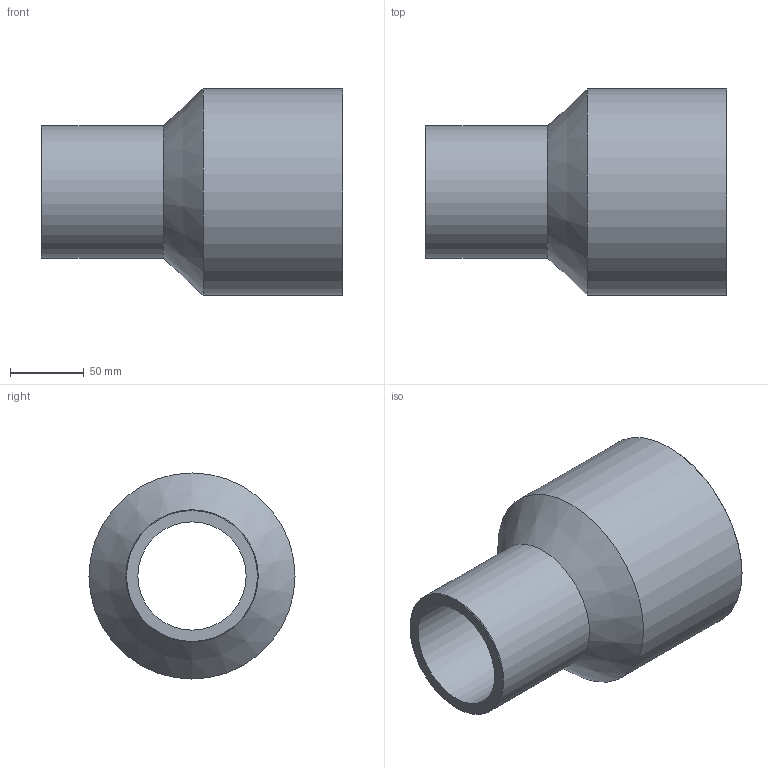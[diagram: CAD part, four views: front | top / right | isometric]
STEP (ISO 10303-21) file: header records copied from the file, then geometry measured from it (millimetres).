
FILE_DESCRIPTION(/* description */ ('Unknown'),/* implementation_level */ '2;1');
FILE_NAME(/* name */ 'RP140090C',/* time_stamp */ '2021-09-17T15:14:33+02:00',/* author */ ('Unknown'),/* organization */ ('Unknown'),/* preprocessor_version */ 'ST-DEVELOPER v16.7',/* originating_system */ 'Solid Edge',/* authorisation */ 'Unknown');
FILE_SCHEMA (('AUTOMOTIVE_DESIGN {1 0 10303 214 3 1 1}'));
Length unit declared in the file: millimetre
Products named in the file (1): RP140090C
Bounding box: 205 x 140 x 140 mm (x, y, z)
Volume: 796673.9 mm3; surface area: 148030.4 mm2
Topology: 1 solids, 1 shells, 10 faces, 19 edges, 11 vertices
Faces by surface type: cylinder 4, cone 4, plane 2
Full cylindrical faces by diameter (mm): 73.6 x1, 90 x1, 114.6 x1, 140 x1
Entity records: 238 total; most frequent: DIRECTION 42, CARTESIAN_POINT 31, AXIS2_PLACEMENT_3D 21, ORIENTED_EDGE 20, EDGE_LOOP 20, FACE_BOUND 20, EDGE_CURVE 10, VERTEX_POINT 10
